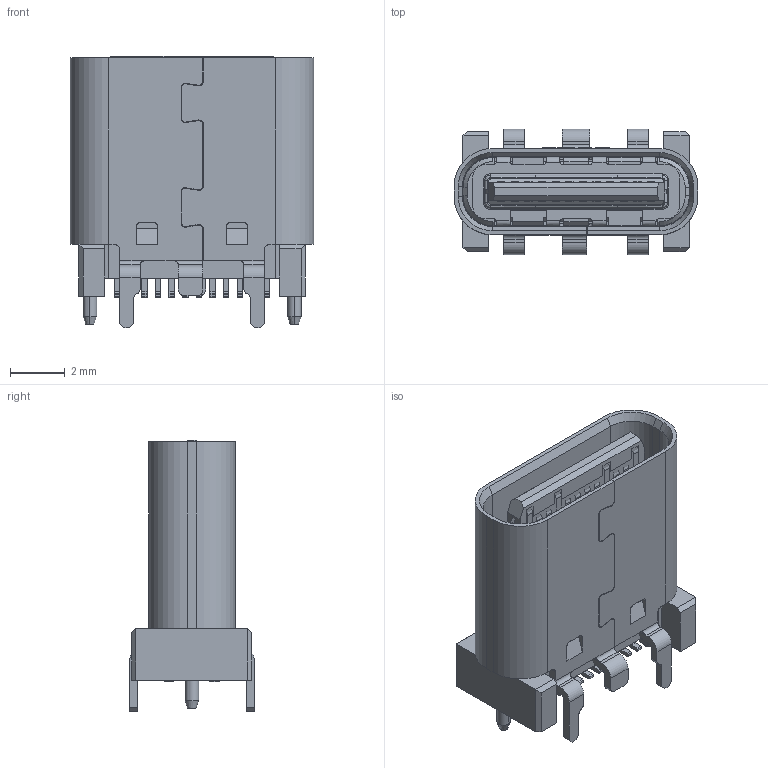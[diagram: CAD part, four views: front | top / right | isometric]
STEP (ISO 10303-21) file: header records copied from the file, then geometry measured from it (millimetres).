
FILE_DESCRIPTION((' '),'2;1');
FILE_NAME( 'U5156-24PN8.8L.stp', '2026-05-12T10:26:09', (' '), ('--- ---'), ' V2026.1 Dec 31 2025', ' 2026 (c)', ' ');
FILE_SCHEMA(('AP242_MANAGED_MODEL_BASED_3D_ENGINEERING_MIM_LF { 1 0 10303 442 1 1 4 }'));
Length unit declared in the file: millimetre
Products named in the file (29): WAIKE_1_1; PRT0004_16_1; ____-____-588_1; ____-____2-23582_1; ____-____-43489_1; ____-____-54195_1; ____-____2-15741_1; ____-____-32809_1; ____-____-49765_1; ____-____2-14659_1; ____-____-47917_1; ____-____-5016_1; ____-____-29115_1; ____-____-59333_1; DRW0001_7_ASM_1_ASM; 6_5HMD0002_30_1_1_17_1; 6_5HMD0002_30_ASM_1_ASM_2_ASM_A_ASM; 6_400_9_1_11_1; 6_40001_ASM_13_ASM_1_ASM_3_ASM__ASM; 6_5HMD0003_ASM_27_ASM_1_ASM_2_A_ASM; 6_5HMD0001_ASM_35_ASM_1_ASM_1_A_ASM; 6_5H16P0001_ASM_30_ASM_1_ASM_1__ASM; EM_1_1; 00008_3_1; P0001_ASM_ASM_48_ASM_ASM_1_ASM; 24PIN____3D_ASM_1_ASM; 24PIN____3D-1_____ASM_1_ASM; U5156-24PN8.8L(2); U5156-24PN8.8L
Assembly tree (29 placements, depth 10):
  U5156-24PN8.8L
    U5156-24PN8.8L(2)
      24PIN____3D-1_____ASM_1_ASM
        24PIN____3D_ASM_1_ASM
          P0001_ASM_ASM_48_ASM_ASM_1_ASM
            WAIKE_1_1
            PRT0004_16_1
            DRW0001_7_ASM_1_ASM  x2
              ____-____-588_1
              ____-____2-23582_1
              ____-____-43489_1
              ____-____-54195_1
              ____-____2-15741_1
              ____-____-32809_1
              ____-____-49765_1
              ____-____2-14659_1
              ____-____-47917_1
              ____-____-5016_1
              ____-____-29115_1
              ____-____-59333_1
            6_5H16P0001_ASM_30_ASM_1_ASM_1__ASM
              6_5HMD0001_ASM_35_ASM_1_ASM_1_A_ASM
                6_5HMD0002_30_ASM_1_ASM_2_ASM_A_ASM
                  6_5HMD0002_30_1_1_17_1
                6_5HMD0003_ASM_27_ASM_1_ASM_2_A_ASM
                  6_40001_ASM_13_ASM_1_ASM_3_ASM__ASM
            EM_1_1
            00008_3_1
Bounding box: 8.94 x 4.6 x 9.95 mm (x, y, z)
Volume: 201.8 mm3; surface area: 1131.8 mm2
Topology: 30 solids, 30 shells, 2332 faces, 6784 edges, 4489 vertices
Faces by surface type: plane 1696, cylinder 571, bspline 29, cone 24, torus 12
Entity records: 63131 total; most frequent: CARTESIAN_POINT 13581, ORIENTED_EDGE 10688, DIRECTION 9578, EDGE_CURVE 5344, VECTOR 4224, LINE 4224, VERTEX_POINT 3529, AXIS2_PLACEMENT_3D 2677
